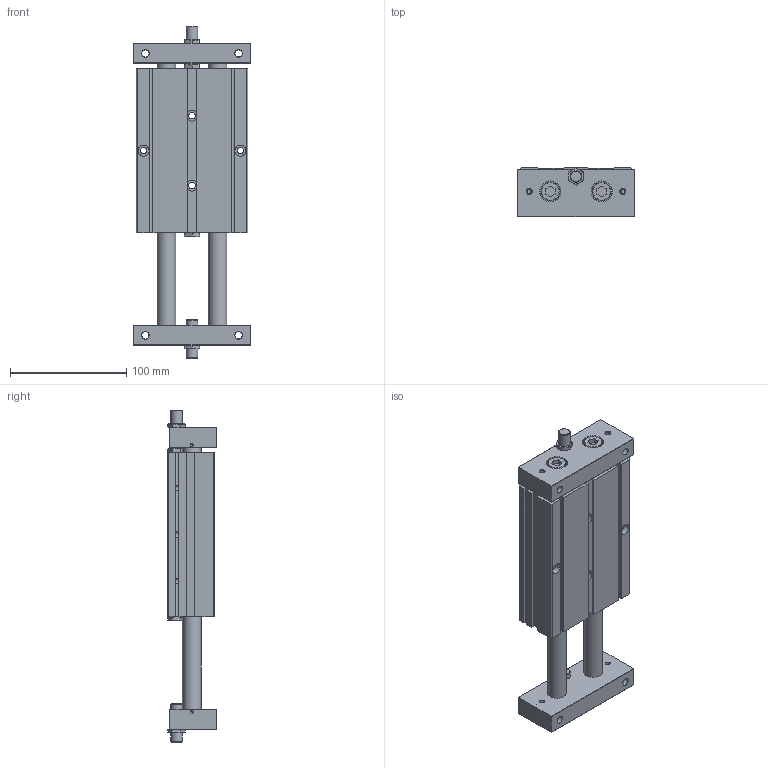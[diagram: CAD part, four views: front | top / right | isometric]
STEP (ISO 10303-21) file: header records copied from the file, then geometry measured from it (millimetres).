
FILE_DESCRIPTION((''),'2;1');
FILE_NAME('I:\3D電子目錄\氣缸\STU\STU\STU32\STU32x75.stp','2007-10-01T14:01:24',('Administrator'),(''),'Autodesk Inventor 11','Autodesk Inventor 11','');
FILE_SCHEMA(('AUTOMOTIVE_DESIGN { 1 0 10303 214 1 1 1 1 }'));
Length unit declared in the file: millimetre
Products named in the file (1): STU32
Bounding box: 100 x 42.5 x 285 mm (x, y, z)
Volume: 669047.9 mm3; surface area: 105213.2 mm2
Topology: 1 solids, 1 shells, 315 faces, 744 edges, 472 vertices
Faces by surface type: plane 145, cone 76, bspline 62, cylinder 28, torus 4
Full cylindrical faces by diameter (mm): 2.459 x2, 9.5 x4, 10 x4, 16 x6, 17.5 x4, 34 x2, 35.9 x2
Entity records: 9985 total; most frequent: CARTESIAN_POINT 3594, ORIENTED_EDGE 1220, DIRECTION 1212, EDGE_CURVE 610, EDGE_LOOP 518, AXIS2_PLACEMENT_3D 464, VERTEX_POINT 446, FACE_OUTER_BOUND 315
